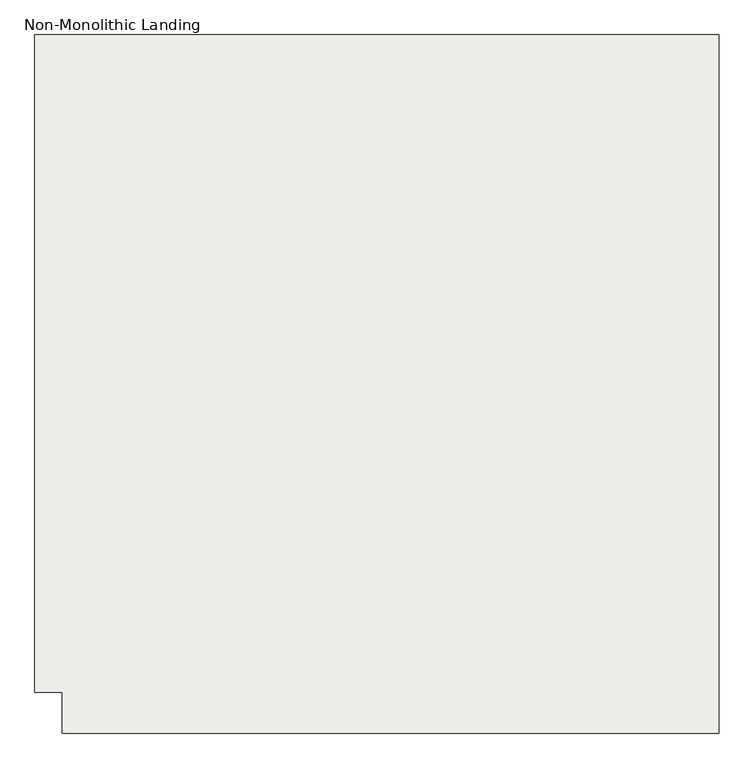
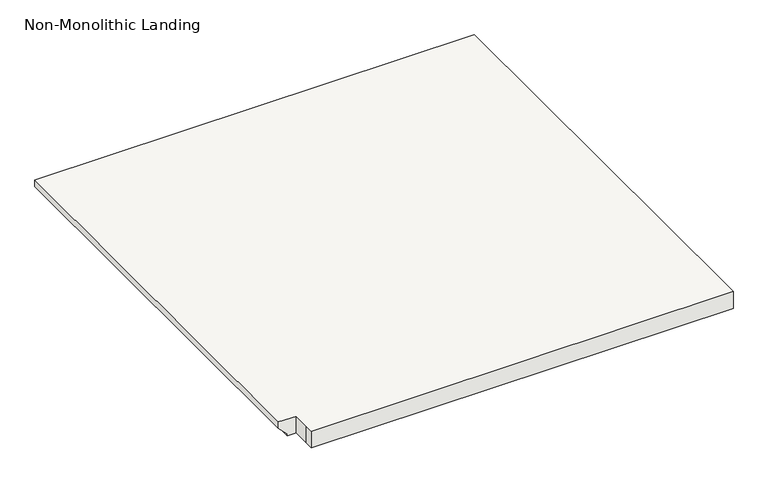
"""IFC4 building model written with IfcOpenShell, lengths in millimetres: slab geometry, Non-Monolithic Landing."""

from ifc_helpers import new_model, si_unit, origin, place, context, project, spatial, faceted_brep, source, transform, mapped, element, save


def non_monolithic_landing_848a35af(model_context):
    return source(origin(), model_context, "Body", "Brep", [
        faceted_brep([(18450.2726301, 7726.1746638, 1828.8), (18450.2726301, 7675.3746638, 1828.8), (18450.2726301, 7649.9746638, 1828.8), (19669.4726301, 7649.9746638, 1828.8), (19669.4726301, 7675.3746638, 1828.8), (19669.4726301, 8945.3746638, 1828.8), (18399.4726301, 8945.3746638, 1828.8), (18399.4726301, 7726.1746638, 1828.8), (18424.8726301, 7726.1746638, 1778.0), (18424.8726301, 8945.3746638, 1778.0), (19669.4726301, 8945.3746638, 1778.0), (19669.4726301, 7675.3746638, 1778.0), (19669.4726301, 7649.9746638, 1778.0), (18450.2726301, 7649.9746638, 1778.0), (18450.2726301, 7675.3746638, 1778.0), (18450.2726301, 7726.1746638, 1778.0), (18399.4726301, 7726.1746638, 1809.75), (18424.8726301, 7726.1746638, 1784.35), (18399.4726301, 8945.3746638, 1809.75), (18424.8726301, 8945.3746638, 1784.35)], [[[0, 1, 2, 3, 4, 5, 6, 7]], [[8, 9, 10, 11, 12, 13, 14, 15]], [[0, 7, 16, 17, 8, 15]], [[2, 1, 14, 13]], [[4, 3, 12, 11]], [[5, 4, 11, 10]], [[16, 7, 6, 18]], [[17, 16, 18, 19]], [[9, 8, 17, 19]], [[1, 0, 15, 14]], [[3, 2, 13, 12]], [[6, 5, 10, 9, 19, 18]]]),
    ])


if __name__ == "__main__":
    model = new_model("IFC4")
    model_context = context("Model", 3, world=origin())
    ifc_project = project(units=[si_unit("LENGTHUNIT", "METRE", prefix="MILLI")], contexts=[model_context])
    site = spatial("IfcSite", under=ifc_project)
    building = spatial("IfcBuilding", under=site)
    placement = place(None, origin())
    non_monolithic_landing_shape = non_monolithic_landing_848a35af(model_context)
    element("IfcSlab", 1, ObjectType="Non-Monolithic Landing", at=placement, inside=building, context=model_context, shape_type="MappedRepresentation", body=[
        mapped(non_monolithic_landing_shape, transform((0.0, 0.0, 0.0), x_axis=(1.0, 0.0, 0.0), y_axis=(0.0, 1.0, 0.0), z_axis=(0.0, 0.0, 1.0))),
    ])
    save(model, "model.ifc")
